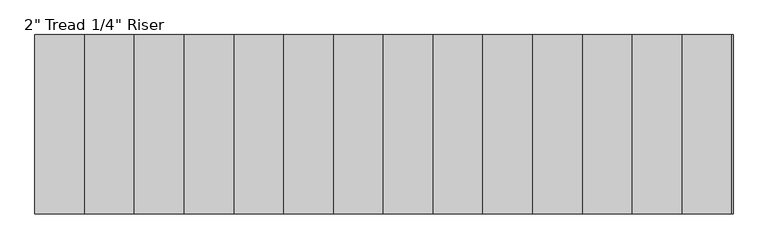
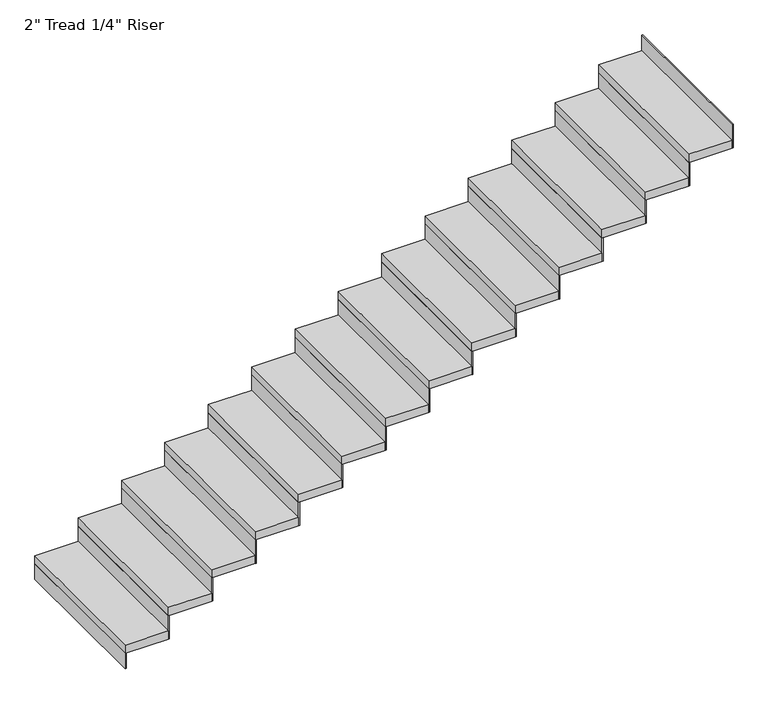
"""IFC4 building model written with IfcOpenShell, lengths in millimetres: stair flight geometry."""

from ifc_helpers import new_model, si_unit, frame, origin, origin_with_axes, place, context, project, spatial, polyline, outline, extrude, source, transform, mapped, element, save


def stair_flight_10cebc0c(model_context):
    return source(origin(), model_context, "Body", "SweptSolid", [
        extrude(outline(polyline([(31615.8766433, -11321.4469585), (31609.5266433, -11321.4469585), (31609.5266433, -10407.0469585), (31615.8766433, -10407.0469585), (31615.8766433, -11321.4469585)])), origin_with_axes(), (0.0, 0.0, 1.0), 94.3428571),
        extrude(outline(polyline([(31863.5266433, -10407.0469585), (31863.5266433, -11321.4469585), (31609.5266433, -11321.4469585), (31609.5266433, -10407.0469585), (31863.5266433, -10407.0469585)])), frame((0.0, 0.0, 94.3428571), z_axis=(0.0, 0.0, 1.0), x_axis=(1.0, 0.0, 0.0)), (0.0, 0.0, 1.0), 50.8),
        extrude(outline(polyline([(31869.8766433, -11321.4469585), (31863.5266433, -11321.4469585), (31863.5266433, -10407.0469585), (31869.8766433, -10407.0469585), (31869.8766433, -11321.4469585)])), frame((0.0, 0.0, 94.3428571), z_axis=(0.0, 0.0, 1.0), x_axis=(1.0, 0.0, 0.0)), (0.0, 0.0, 1.0), 145.1428571),
        extrude(outline(polyline([(32117.5266433, -10407.0469585), (32117.5266433, -11321.4469585), (31863.5266433, -11321.4469585), (31863.5266433, -10407.0469585), (32117.5266433, -10407.0469585)])), frame((0.0, 0.0, 239.4857143), z_axis=(0.0, 0.0, 1.0), x_axis=(1.0, 0.0, 0.0)), (0.0, 0.0, 1.0), 50.8),
        extrude(outline(polyline([(32123.8766433, -11321.4469585), (32117.5266433, -11321.4469585), (32117.5266433, -10407.0469585), (32123.8766433, -10407.0469585), (32123.8766433, -11321.4469585)])), frame((0.0, 0.0, 239.4857143), z_axis=(0.0, 0.0, 1.0), x_axis=(1.0, 0.0, 0.0)), (0.0, 0.0, 1.0), 145.1428571),
        extrude(outline(polyline([(32371.5266433, -10407.0469585), (32371.5266433, -11321.4469585), (32117.5266433, -11321.4469585), (32117.5266433, -10407.0469585), (32371.5266433, -10407.0469585)])), frame((0.0, 0.0, 384.6285714), z_axis=(0.0, 0.0, 1.0), x_axis=(1.0, 0.0, 0.0)), (0.0, 0.0, 1.0), 50.8),
        extrude(outline(polyline([(32377.8766433, -11321.4469585), (32371.5266433, -11321.4469585), (32371.5266433, -10407.0469585), (32377.8766433, -10407.0469585), (32377.8766433, -11321.4469585)])), frame((0.0, 0.0, 384.6285714), z_axis=(0.0, 0.0, 1.0), x_axis=(1.0, 0.0, 0.0)), (0.0, 0.0, 1.0), 145.1428571),
        extrude(outline(polyline([(32625.5266433, -10407.0469585), (32625.5266433, -11321.4469585), (32371.5266433, -11321.4469585), (32371.5266433, -10407.0469585), (32625.5266433, -10407.0469585)])), frame((0.0, 0.0, 529.7714286), z_axis=(0.0, 0.0, 1.0), x_axis=(1.0, 0.0, 0.0)), (0.0, 0.0, 1.0), 50.8),
        extrude(outline(polyline([(32631.8766433, -11321.4469585), (32625.5266433, -11321.4469585), (32625.5266433, -10407.0469585), (32631.8766433, -10407.0469585), (32631.8766433, -11321.4469585)])), frame((0.0, 0.0, 529.7714286), z_axis=(0.0, 0.0, 1.0), x_axis=(1.0, 0.0, 0.0)), (0.0, 0.0, 1.0), 145.1428571),
        extrude(outline(polyline([(32879.5266433, -10407.0469585), (32879.5266433, -11321.4469585), (32625.5266433, -11321.4469585), (32625.5266433, -10407.0469585), (32879.5266433, -10407.0469585)])), frame((0.0, 0.0, 674.9142857), z_axis=(0.0, 0.0, 1.0), x_axis=(1.0, 0.0, 0.0)), (0.0, 0.0, 1.0), 50.8),
        extrude(outline(polyline([(32885.8766433, -11321.4469585), (32879.5266433, -11321.4469585), (32879.5266433, -10407.0469585), (32885.8766433, -10407.0469585), (32885.8766433, -11321.4469585)])), frame((0.0, 0.0, 674.9142857), z_axis=(0.0, 0.0, 1.0), x_axis=(1.0, 0.0, 0.0)), (0.0, 0.0, 1.0), 145.1428571),
        extrude(outline(polyline([(33133.5266433, -10407.0469585), (33133.5266433, -11321.4469585), (32879.5266433, -11321.4469585), (32879.5266433, -10407.0469585), (33133.5266433, -10407.0469585)])), frame((0.0, 0.0, 820.0571429), z_axis=(0.0, 0.0, 1.0), x_axis=(1.0, 0.0, 0.0)), (0.0, 0.0, 1.0), 50.8),
        extrude(outline(polyline([(33139.8766433, -11321.4469585), (33133.5266433, -11321.4469585), (33133.5266433, -10407.0469585), (33139.8766433, -10407.0469585), (33139.8766433, -11321.4469585)])), frame((0.0, 0.0, 820.0571429), z_axis=(0.0, 0.0, 1.0), x_axis=(1.0, 0.0, 0.0)), (0.0, 0.0, 1.0), 145.1428571),
        extrude(outline(polyline([(33387.5266433, -10407.0469585), (33387.5266433, -11321.4469585), (33133.5266433, -11321.4469585), (33133.5266433, -10407.0469585), (33387.5266433, -10407.0469585)])), frame((0.0, 0.0, 965.2), z_axis=(0.0, 0.0, 1.0), x_axis=(1.0, 0.0, 0.0)), (0.0, 0.0, 1.0), 50.8),
        extrude(outline(polyline([(33393.8766433, -11321.4469585), (33387.5266433, -11321.4469585), (33387.5266433, -10407.0469585), (33393.8766433, -10407.0469585), (33393.8766433, -11321.4469585)])), frame((0.0, 0.0, 965.2), z_axis=(0.0, 0.0, 1.0), x_axis=(1.0, 0.0, 0.0)), (0.0, 0.0, 1.0), 145.1428571),
        extrude(outline(polyline([(33641.5266433, -10407.0469585), (33641.5266433, -11321.4469585), (33387.5266433, -11321.4469585), (33387.5266433, -10407.0469585), (33641.5266433, -10407.0469585)])), frame((0.0, 0.0, 1110.3428571), z_axis=(0.0, 0.0, 1.0), x_axis=(1.0, 0.0, 0.0)), (0.0, 0.0, 1.0), 50.8),
        extrude(outline(polyline([(33647.8766433, -11321.4469585), (33641.5266433, -11321.4469585), (33641.5266433, -10407.0469585), (33647.8766433, -10407.0469585), (33647.8766433, -11321.4469585)])), frame((0.0, 0.0, 1110.3428571), z_axis=(0.0, 0.0, 1.0), x_axis=(1.0, 0.0, 0.0)), (0.0, 0.0, 1.0), 145.1428571),
        extrude(outline(polyline([(33895.5266433, -10407.0469585), (33895.5266433, -11321.4469585), (33641.5266433, -11321.4469585), (33641.5266433, -10407.0469585), (33895.5266433, -10407.0469585)])), frame((0.0, 0.0, 1255.4857143), z_axis=(0.0, 0.0, 1.0), x_axis=(1.0, 0.0, 0.0)), (0.0, 0.0, 1.0), 50.8),
        extrude(outline(polyline([(33901.8766433, -11321.4469585), (33895.5266433, -11321.4469585), (33895.5266433, -10407.0469585), (33901.8766433, -10407.0469585), (33901.8766433, -11321.4469585)])), frame((0.0, 0.0, 1255.4857143), z_axis=(0.0, 0.0, 1.0), x_axis=(1.0, 0.0, 0.0)), (0.0, 0.0, 1.0), 145.1428571),
        extrude(outline(polyline([(34149.5266433, -10407.0469585), (34149.5266433, -11321.4469585), (33895.5266433, -11321.4469585), (33895.5266433, -10407.0469585), (34149.5266433, -10407.0469585)])), frame((0.0, 0.0, 1400.6285714), z_axis=(0.0, 0.0, 1.0), x_axis=(1.0, 0.0, 0.0)), (0.0, 0.0, 1.0), 50.8),
        extrude(outline(polyline([(34155.8766433, -11321.4469585), (34149.5266433, -11321.4469585), (34149.5266433, -10407.0469585), (34155.8766433, -10407.0469585), (34155.8766433, -11321.4469585)])), frame((0.0, 0.0, 1400.6285714), z_axis=(0.0, 0.0, 1.0), x_axis=(1.0, 0.0, 0.0)), (0.0, 0.0, 1.0), 145.1428571),
        extrude(outline(polyline([(34403.5266433, -10407.0469585), (34403.5266433, -11321.4469585), (34149.5266433, -11321.4469585), (34149.5266433, -10407.0469585), (34403.5266433, -10407.0469585)])), frame((0.0, 0.0, 1545.7714286), z_axis=(0.0, 0.0, 1.0), x_axis=(1.0, 0.0, 0.0)), (0.0, 0.0, 1.0), 50.8),
        extrude(outline(polyline([(34409.8766433, -11321.4469585), (34403.5266433, -11321.4469585), (34403.5266433, -10407.0469585), (34409.8766433, -10407.0469585), (34409.8766433, -11321.4469585)])), frame((0.0, 0.0, 1545.7714286), z_axis=(0.0, 0.0, 1.0), x_axis=(1.0, 0.0, 0.0)), (0.0, 0.0, 1.0), 145.1428571),
        extrude(outline(polyline([(34657.5266433, -10407.0469585), (34657.5266433, -11321.4469585), (34403.5266433, -11321.4469585), (34403.5266433, -10407.0469585), (34657.5266433, -10407.0469585)])), frame((0.0, 0.0, 1690.9142857), z_axis=(0.0, 0.0, 1.0), x_axis=(1.0, 0.0, 0.0)), (0.0, 0.0, 1.0), 50.8),
        extrude(outline(polyline([(34663.8766433, -11321.4469585), (34657.5266433, -11321.4469585), (34657.5266433, -10407.0469585), (34663.8766433, -10407.0469585), (34663.8766433, -11321.4469585)])), frame((0.0, 0.0, 1690.9142857), z_axis=(0.0, 0.0, 1.0), x_axis=(1.0, 0.0, 0.0)), (0.0, 0.0, 1.0), 145.1428571),
        extrude(outline(polyline([(34911.5266433, -10407.0469585), (34911.5266433, -11321.4469585), (34657.5266433, -11321.4469585), (34657.5266433, -10407.0469585), (34911.5266433, -10407.0469585)])), frame((0.0, 0.0, 1836.0571429), z_axis=(0.0, 0.0, 1.0), x_axis=(1.0, 0.0, 0.0)), (0.0, 0.0, 1.0), 50.8),
        extrude(outline(polyline([(34917.8766433, -11321.4469585), (34911.5266433, -11321.4469585), (34911.5266433, -10407.0469585), (34917.8766433, -10407.0469585), (34917.8766433, -11321.4469585)])), frame((0.0, 0.0, 1836.0571429), z_axis=(0.0, 0.0, 1.0), x_axis=(1.0, 0.0, 0.0)), (0.0, 0.0, 1.0), 145.1428571),
        extrude(outline(polyline([(35171.8766433, -11321.4469585), (35165.5266433, -11321.4469585), (35165.5266433, -10407.0469585), (35171.8766433, -10407.0469585), (35171.8766433, -11321.4469585)])), frame((0.0, 0.0, 1981.2), z_axis=(0.0, 0.0, 1.0), x_axis=(1.0, 0.0, 0.0)), (0.0, 0.0, 1.0), 145.1428571),
        extrude(outline(polyline([(35165.5266433, -10407.0469585), (35165.5266433, -11321.4469585), (34911.5266433, -11321.4469585), (34911.5266433, -10407.0469585), (35165.5266433, -10407.0469585)])), frame((0.0, 0.0, 1981.2), z_axis=(0.0, 0.0, 1.0), x_axis=(1.0, 0.0, 0.0)), (0.0, 0.0, 1.0), 50.8),
    ])


if __name__ == "__main__":
    model = new_model("IFC4")
    model_context = context("Model", 3, world=origin())
    ifc_project = project(units=[si_unit("LENGTHUNIT", "METRE", prefix="MILLI")], contexts=[model_context])
    site = spatial("IfcSite", under=ifc_project)
    building = spatial("IfcBuilding", under=site)
    placement = place(None, origin())
    stair_flight_shape = stair_flight_10cebc0c(model_context)
    element("IfcStairFlight", 1, ObjectType="2\" Tread 1/4\" Riser", at=placement, inside=building, context=model_context, shape_type="MappedRepresentation", body=[
        mapped(stair_flight_shape, transform((0.0, 0.0, 0.0), x_axis=(1.0, 0.0, 0.0), y_axis=(0.0, 1.0, 0.0), z_axis=(0.0, 0.0, 1.0))),
    ])
    save(model, "model.ifc")
